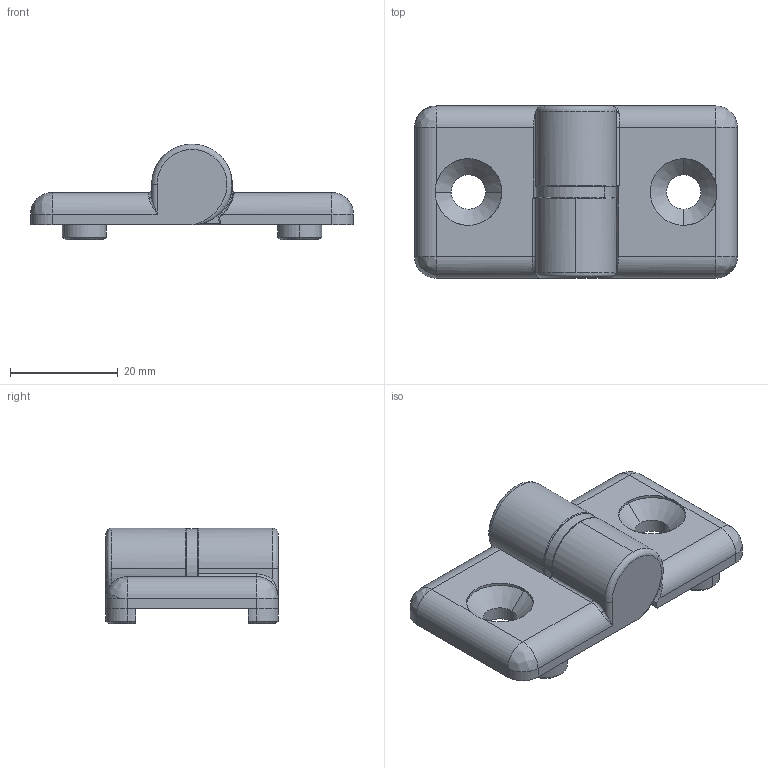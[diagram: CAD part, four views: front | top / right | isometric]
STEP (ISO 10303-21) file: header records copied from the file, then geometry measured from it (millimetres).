
FILE_DESCRIPTION (( 'STEP AP203' ), '1' );
FILE_NAME ('10470_SCHPALIN.STEP', '2018-03-30T07:15:42', ( '' ), ( '' ), 'SwSTEP 2.0', 'SolidWorks 2017', '' );
FILE_SCHEMA (( 'CONFIG_CONTROL_DESIGN' ));
Length unit declared in the file: millimetre
Products named in the file (5): 10470-01-0000-00; 10470-01-0000-01; 10470-01-0000-03; 10470-01-0000-02; 10470_SCHPALIN
Assembly tree (4 placements, depth 2):
  10470_SCHPALIN
    10470-01-0000-00
    10470-01-0000-01
    10470-01-0000-02
    10470-01-0000-03
Bounding box: 60 x 32 x 17.8 mm (x, y, z)
Volume: 13077.1 mm3; surface area: 8005.6 mm2
Topology: 4 solids, 4 shells, 162 faces, 397 edges, 241 vertices
Faces by surface type: cylinder 73, plane 50, bspline 20, cone 19
Entity records: 6324 total; most frequent: CARTESIAN_POINT 2117, ORIENTED_EDGE 782, DIRECTION 780, EDGE_CURVE 391, AXIS2_PLACEMENT_3D 316, VERTEX_POINT 241, EDGE_LOOP 172, CIRCLE 167
